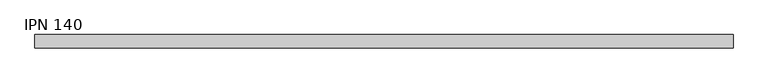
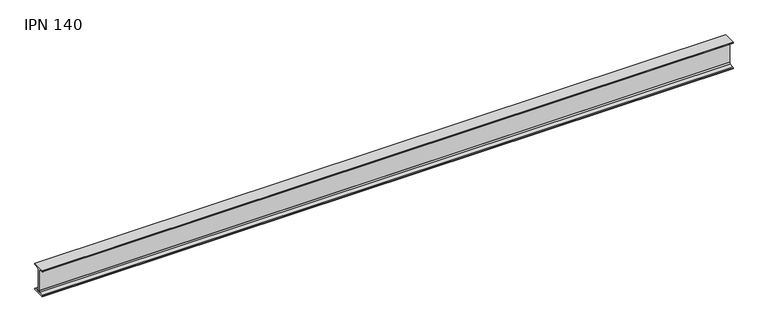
"""IFC4 building model written with IfcOpenShell, lengths in millimetres: beam geometry, IPN - Secciones en I con alas cónicas : IPN 140."""

import ifcopenshell
import ifcopenshell.guid

model = None  # the IFC model being written
_history = None  # IfcOwnerHistory: only IFC2X3 demands one
_inside = {}  # id of a spatial element -> (the spatial element, [elements in it])
_under = {}  # id of a project, library or spatial element -> (it, [spatial elements below it])
_declared = {}  # id of a project -> (the project, [libraries it declares])
_typed = {}  # id of a type object -> (the type object, [elements of that type])
_made_of = {}  # id of a material, layer set ... -> (it, [elements and type objects made of it])


def new_model(schema):
    """Start an empty IFC model of exactly this schema.

    Asked for "IFC4X3", IfcOpenShell would pick the latest addendum, in which some entities
    have other attributes; the version numbers below select the first issue.
    IFC2X3 requires an IfcOwnerHistory on every rooted entity: one is made here for all.
    """
    global model, _history
    if schema == "IFC4X3":
        model = ifcopenshell.file(schema_version=(4, 3, 0, 0))
    else:
        model = ifcopenshell.file(schema=schema)
    _inside.clear()
    _under.clear()
    _declared.clear()
    _typed.clear()
    _made_of.clear()
    _history = None
    if model.schema == "IFC2X3":
        org = make("IfcOrganization", Name="unknown")
        user = make(
            "IfcPersonAndOrganization",
            ThePerson=make("IfcPerson", FamilyName="unknown"),
            TheOrganization=org,
        )
        app = make(
            "IfcApplication",
            ApplicationDeveloper=org,
            Version="unknown",
            ApplicationFullName="unknown",
            ApplicationIdentifier="unknown",
        )
        _history = make(
            "IfcOwnerHistory",
            OwningUser=user,
            OwningApplication=app,
            ChangeAction="ADDED",
            CreationDate=0,
        )
    return model


def make(cls, **values):
    """One entity of the class cls with the attributes given. An attribute that is None is left unset."""
    return model.create_entity(
        cls, **{name: value for name, value in values.items() if value is not None}
    )


def rooted(cls, **values):
    """An entity with a GlobalId (a new one), such as an element, a storey or a relation."""
    return make(cls, GlobalId=ifcopenshell.guid.new(), OwnerHistory=_history, **values)


def si_unit(unit_type, name, prefix=None):
    """IfcSIUnit, for example si_unit("LENGTHUNIT", "METRE", prefix="MILLI")."""
    return make("IfcSIUnit", UnitType=unit_type, Prefix=prefix, Name=name)


def assignment(units):
    """IfcUnitAssignment: the units of a project."""
    return None if units is None else make("IfcUnitAssignment", Units=units)


def point(xyz):
    """IfcCartesianPoint."""
    return None if xyz is None else make("IfcCartesianPoint", Coordinates=xyz)


def direction(xyz):
    """IfcDirection."""
    return None if xyz is None else make("IfcDirection", DirectionRatios=xyz)


def frame(location, z_axis=None, x_axis=None):
    """IfcAxis2Placement3D, a coordinate frame: its origin and axes. An axis left out is left unset."""
    return make(
        "IfcAxis2Placement3D",
        Location=point(location),
        Axis=direction(z_axis),
        RefDirection=direction(x_axis),
    )


def frame_2d(location, x_axis=None):
    """IfcAxis2Placement2D, a coordinate frame in the plane: its origin and x axis."""
    return make(
        "IfcAxis2Placement2D", Location=point(location), RefDirection=direction(x_axis)
    )


def origin():
    """The frame at (0, 0, 0) with its axes left unset."""
    return frame((0.0, 0.0, 0.0))


def place(relative_to, where):
    """IfcLocalPlacement: puts the frame where relative to a parent placement (None: the world)."""
    return make(
        "IfcLocalPlacement", PlacementRelTo=relative_to, RelativePlacement=where
    )


def context(
    kind, dimensions, precision=None, world=None, true_north=None, identifier=None
):
    """IfcGeometricRepresentationContext, for example the 3D "Model" context."""
    return make(
        "IfcGeometricRepresentationContext",
        ContextIdentifier=identifier,
        ContextType=kind,
        CoordinateSpaceDimension=dimensions,
        Precision=precision,
        WorldCoordinateSystem=world,
        TrueNorth=true_north,
    )


def project(units=None, contexts=None):
    """IfcProject with its units and contexts."""
    return rooted(
        "IfcProject",
        Name="project",
        RepresentationContexts=contexts,
        UnitsInContext=assignment(units),
    )


def spatial(cls, under=None, at=None, **own):
    """A site, building, storey or space (cls), placed at a placement, below another one or the project."""
    s = rooted(cls, ObjectPlacement=at, **own)
    if under is not None:
        _under.setdefault(under.id(), (under, []))[1].append(s)
    return s


def polyline(points):
    """IfcPolyline through the points."""
    return make("IfcPolyline", Points=[point(p) for p in points])


def circle_curve(where, radius):
    """IfcCircle in the frame where."""
    return make("IfcCircle", Position=where, Radius=radius)


def trimmed(basis, trim1, trim2, sense, master):
    """IfcTrimmedCurve: the piece of a basis curve between two trims."""
    return make(
        "IfcTrimmedCurve",
        BasisCurve=basis,
        Trim1=trim1,
        Trim2=trim2,
        SenseAgreement=sense,
        MasterRepresentation=master,
    )


def segment(curve, same_sense, transition):
    """IfcCompositeCurveSegment."""
    return make(
        "IfcCompositeCurveSegment",
        Transition=transition,
        SameSense=same_sense,
        ParentCurve=curve,
    )


def composite_curve(segments, self_intersect=None):
    """IfcCompositeCurve: segments joined end to end."""
    return make("IfcCompositeCurve", Segments=segments, SelfIntersect=self_intersect)


def outline(outer, holes=None, kind="AREA"):
    """IfcArbitraryClosedProfileDef: a profile drawn as a closed curve; with holes, ...WithVoids."""
    if holes is None:
        return make("IfcArbitraryClosedProfileDef", ProfileType=kind, OuterCurve=outer)
    return make(
        "IfcArbitraryProfileDefWithVoids",
        ProfileType=kind,
        OuterCurve=outer,
        InnerCurves=holes,
    )


def extrude(swept, where, along, depth):
    """IfcExtrudedAreaSolid: the profile swept, set in the frame where, extruded along a direction by depth."""
    return make(
        "IfcExtrudedAreaSolid",
        SweptArea=swept,
        Position=where,
        ExtrudedDirection=direction(along),
        Depth=depth,
    )


def shape(context_of_items, identifier, shape_type, items):
    """IfcShapeRepresentation: the items that make up one representation, for example the "Body"."""
    return make(
        "IfcShapeRepresentation",
        ContextOfItems=context_of_items,
        RepresentationIdentifier=identifier,
        RepresentationType=shape_type,
        Items=items,
    )


def source(mapping_origin, context_of_items, identifier, shape_type, items):
    """IfcRepresentationMap: a shape defined once, which mapped items show again and again."""
    return make(
        "IfcRepresentationMap",
        MappingOrigin=mapping_origin,
        MappedRepresentation=shape(context_of_items, identifier, shape_type, items),
    )


def transform(
    local_origin,
    x_axis=None,
    y_axis=None,
    z_axis=None,
    scale=None,
    scale2=None,
    scale3=None,
    uniform=True,
):
    """IfcCartesianTransformationOperator3D, or its non-uniform kind. x_axis, y_axis, z_axis: its Axis1, 2, 3."""
    if uniform:
        return make(
            "IfcCartesianTransformationOperator3D",
            Axis1=direction(x_axis),
            Axis2=direction(y_axis),
            LocalOrigin=point(local_origin),
            Scale=scale,
            Axis3=direction(z_axis),
        )
    return make(
        "IfcCartesianTransformationOperator3DnonUniform",
        Axis1=direction(x_axis),
        Axis2=direction(y_axis),
        LocalOrigin=point(local_origin),
        Scale=scale,
        Axis3=direction(z_axis),
        Scale2=scale2,
        Scale3=scale3,
    )


def mapped(mapping_source, mapping_target):
    """IfcMappedItem: shows the shape of a source again, moved by a transform."""
    return make(
        "IfcMappedItem", MappingSource=mapping_source, MappingTarget=mapping_target
    )


def made_of(thing, what):
    """Note that an element or type object is made of a material, layer set ...; save() writes the relation."""
    if what is not None:
        _made_of.setdefault(what.id(), (what, []))[1].append(thing)
    return thing


def element(
    cls,
    number,
    at=None,
    inside=None,
    cuts=None,
    type_object=None,
    material=None,
    context=None,
    identifier="Body",
    shape_type=None,
    held_by="IfcProductDefinitionShape",
    body=None,
    shapes=None,
    **own,
):
    """One element of the class cls, such as IfcWall. Its Tag is "e" and its number.

    at: its placement. inside: the storey or other place that contains it. cuts: it is an
    opening in that element (IfcRelVoidsElement). A single representation is given by context,
    identifier, shape_type and body (its items); several are given by shapes. held_by: the class
    of the entity that holds the representations. save() writes the other relations.
    """
    e = rooted(cls, Tag="e%d" % number, ObjectPlacement=at, **own)
    if body is not None:
        shapes = [shape(context, identifier, shape_type, body)]
    if shapes is not None:
        e.Representation = make(held_by, Representations=shapes)
    if inside is not None:
        _inside.setdefault(inside.id(), (inside, []))[1].append(e)
    if cuts is not None:
        rooted(
            "IfcRelVoidsElement", RelatingBuildingElement=cuts, RelatedOpeningElement=e
        )
    if type_object is not None:
        _typed.setdefault(type_object.id(), (type_object, []))[1].append(e)
    return made_of(e, material)


def aggregate(whole, parts):
    """IfcRelAggregates: a whole, such as a stair, and the parts it consists of."""
    return rooted("IfcRelAggregates", RelatingObject=whole, RelatedObjects=parts)


def save(model, path):
    """Write the relations noted so far, then the file.

    IfcRelAggregates (storeys below a building ...), IfcRelContainedInSpatialStructure (elements
    in a storey), IfcRelDefinesByType, IfcRelAssociatesMaterial and IfcRelDeclares: one each for
    every whole, place, type object, material and project.
    """
    for whole, parts in _under.values():
        aggregate(whole, parts)
    for where, things in _inside.values():
        rooted(
            "IfcRelContainedInSpatialStructure",
            RelatedElements=things,
            RelatingStructure=where,
        )
    for kind, things in _typed.values():
        rooted("IfcRelDefinesByType", RelatedObjects=things, RelatingType=kind)
    for what, things in _made_of.values():
        rooted("IfcRelAssociatesMaterial", RelatedObjects=things, RelatingMaterial=what)
    for by, libraries in _declared.values():
        rooted("IfcRelDeclares", RelatingContext=by, RelatedDefinitions=libraries)
    model.write(path)


def ipn_140_6146be9b(model_context):
    return source(origin(), model_context, "Body", "SweptSolid", [
        extrude(outline(composite_curve([segment(polyline([(33.0, 70.0), (33.0, 66.6671583)]), True, "CONTINUOUS"), segment(trimmed(circle_curve(frame_2d((29.6, 66.6671583)), 3.4), [point((33.0, 66.6671583))], [point((30.0714027, 63.2999964))], False, "CARTESIAN"), True, "CONTINUOUS"), segment(polyline([(30.0714027, 63.2999964), (7.7597073, 60.176359)]), True, "CONTINUOUS"), segment(trimmed(circle_curve(frame_2d((8.55, 54.5314111)), 5.7), [point((7.7597073, 60.176359))], [point((2.85, 54.5314111))], True, "CARTESIAN"), True, "CONTINUOUS"), segment(polyline([(2.85, 54.5314111), (2.85, -54.5314111)]), True, "CONTINUOUS"), segment(trimmed(circle_curve(frame_2d((8.55, -54.5314111)), 5.7), [point((2.85, -54.5314111))], [point((7.7597073, -60.176359))], True, "CARTESIAN"), True, "CONTINUOUS"), segment(polyline([(7.7597073, -60.176359), (30.0714027, -63.2999964)]), True, "CONTINUOUS"), segment(trimmed(circle_curve(frame_2d((29.6, -66.6671583)), 3.4), [point((30.0714027, -63.2999964))], [point((33.0, -66.6671583))], False, "CARTESIAN"), True, "CONTINUOUS"), segment(polyline([(33.0, -66.6671583), (33.0, -70.0), (-33.0, -70.0), (-33.0, -66.6671583)]), True, "CONTINUOUS"), segment(trimmed(circle_curve(frame_2d((-29.6, -66.6671583)), 3.4), [point((-33.0, -66.6671583))], [point((-30.0714027, -63.2999964))], False, "CARTESIAN"), True, "CONTINUOUS"), segment(polyline([(-30.0714027, -63.2999964), (-7.7597073, -60.176359)]), True, "CONTINUOUS"), segment(trimmed(circle_curve(frame_2d((-8.55, -54.5314111)), 5.7), [point((-7.7597073, -60.176359))], [point((-2.85, -54.5314111))], True, "CARTESIAN"), True, "CONTINUOUS"), segment(polyline([(-2.85, -54.5314111), (-2.85, 54.5314111)]), True, "CONTINUOUS"), segment(trimmed(circle_curve(frame_2d((-8.55, 54.5314111)), 5.7), [point((-2.85, 54.5314111))], [point((-7.7597073, 60.176359))], True, "CARTESIAN"), True, "CONTINUOUS"), segment(polyline([(-7.7597073, 60.176359), (-30.0714027, 63.2999964)]), True, "CONTINUOUS"), segment(trimmed(circle_curve(frame_2d((-29.6, 66.6671583)), 3.4), [point((-30.0714027, 63.2999964))], [point((-33.0, 66.6671583))], False, "CARTESIAN"), True, "CONTINUOUS"), segment(polyline([(-33.0, 66.6671583), (-33.0, 70.0), (33.0, 70.0)]), True, "CONTINUOUS")], self_intersect=False)), frame((-1740.0, 0.0, 0.0), z_axis=(1.0, 0.0, 0.0), x_axis=(0.0, 1.0, 0.0)), (0.0, 0.0, 1.0), 3476.0),
    ])


if __name__ == "__main__":
    model = new_model("IFC4")
    model_context = context("Model", 3, world=origin())
    ifc_project = project(units=[si_unit("LENGTHUNIT", "METRE", prefix="MILLI")], contexts=[model_context])
    site = spatial("IfcSite", under=ifc_project)
    building = spatial("IfcBuilding", under=site)
    placement = place(None, origin())
    ipn_140_shape = ipn_140_6146be9b(model_context)
    element("IfcBeam", 1, ObjectType="IPN - Secciones en I con alas cónicas : IPN 140", at=placement, inside=building, context=model_context, shape_type="MappedRepresentation", body=[
        mapped(ipn_140_shape, transform((0.0, 0.0, 0.0), x_axis=(1.0, 0.0, 0.0), y_axis=(0.0, 1.0, 0.0), z_axis=(0.0, 0.0, 1.0))),
    ])
    save(model, "model.ifc")
